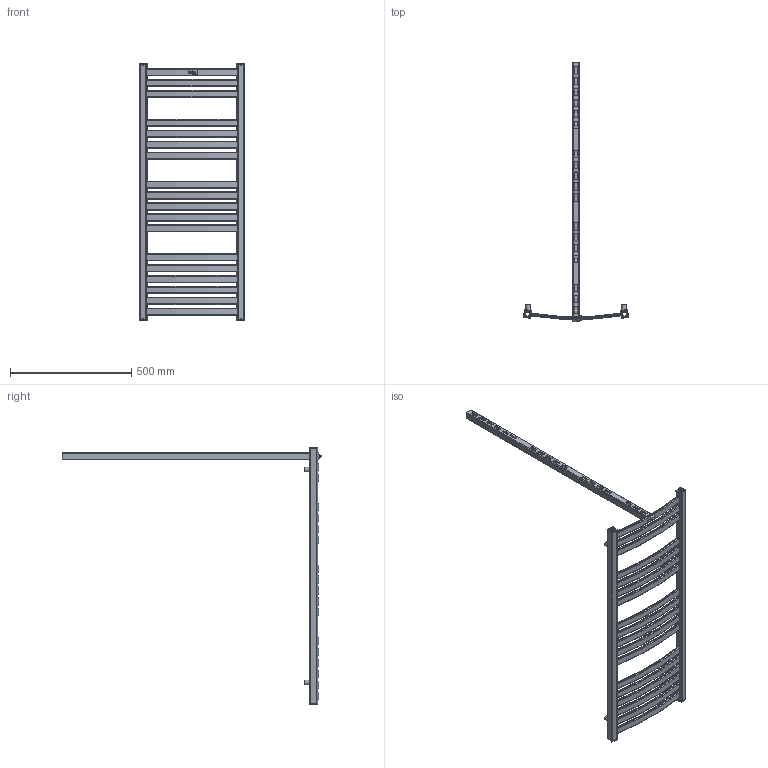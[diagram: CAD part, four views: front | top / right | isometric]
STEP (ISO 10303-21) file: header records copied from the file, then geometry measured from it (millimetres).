
FILE_DESCRIPTION( ( 'Unknown' ), '1' );
FILE_NAME( 'D:/Alplast sp. j/Witryna zespoBu - Projekty/Archiwum/Grzejniki Archiwum/Projekty/STANDARD/AK-EL/AK4-400EL.stp', 'Unknown', ( 'Unknown' ), ( 'Unknown' ), 'PSStep 10.1', 'Unknown', ' ' );
FILE_SCHEMA( ( 'AUTOMOTIVE_DESIGN { 1 0 10303 214 1 1 1 1 }' ) );
Length unit declared in the file: millimetre
Products named in the file (5): Assem1; kana³  poziomy lukowy L-400; zaslepka kwadrat otwor; tulejka kat 12stopni; AK4-EPEL
Bounding box: 433.71 x 1071 x 1060 mm (x, y, z)
Volume: 1278828 mm3; surface area: 1715154.3 mm2
Topology: 32 solids, 32 shells, 968 faces, 2702 edges, 1808 vertices
Faces by surface type: plane 430, cylinder 376, torus 162
Full cylindrical faces by diameter (mm): 16 x5, 18 x5, 18.631 x5, 23 x5
Entity records: 8830 total; most frequent: DIRECTION 1286, CARTESIAN_POINT 1225, ORIENTED_EDGE 1180, EDGE_CURVE 590, AXIS2_PLACEMENT_3D 459, VERTEX_POINT 398, LINE 368, VECTOR 368
